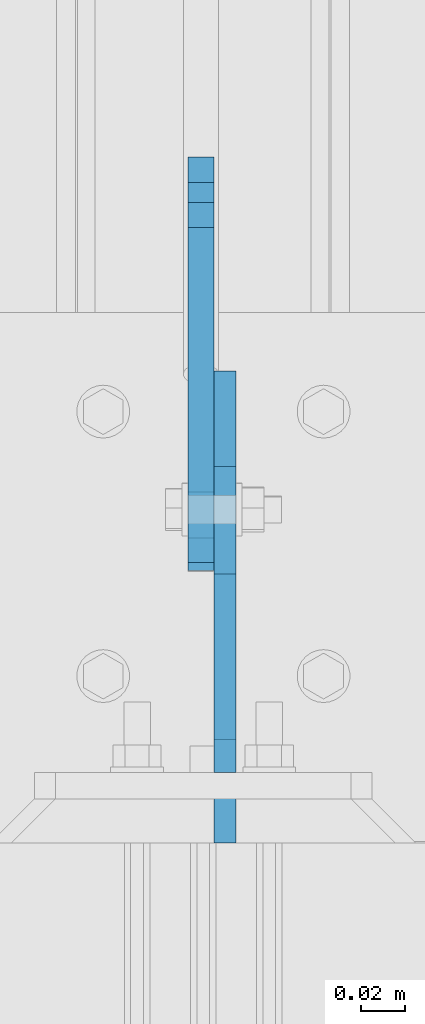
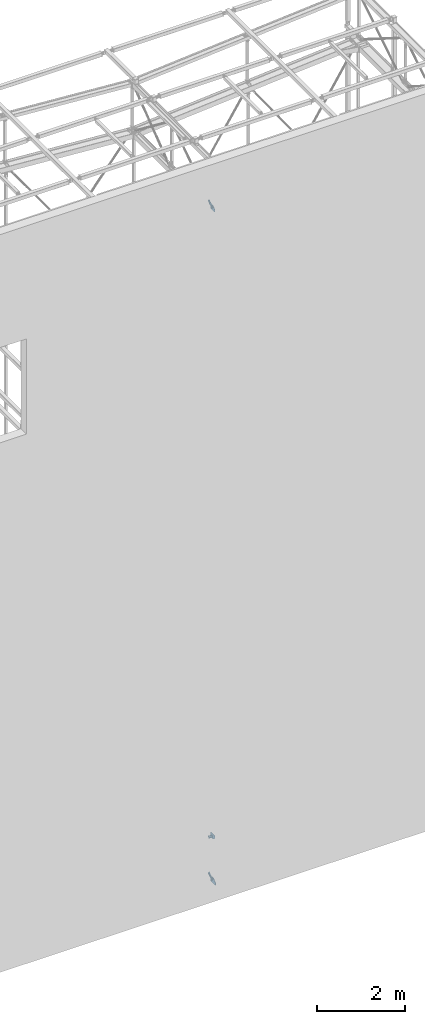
# One storey, part 116 of 271: 6 plates, 6 elements without a shape of their own.
"""IFC2X3 building model written with IfcOpenShell, lengths in millimetres."""

from ifc_helpers import new_model, si_unit, frame, origin_with_axes, place, context, subcontext, project, spatial, polyline, outline, extrude, material, type_object, element, aggregate, save


model = new_model("IFC2X3")

# Units and contexts
model_context = context("Model", 3, precision=1e-05, world=origin_with_axes())
body_context = subcontext(model_context, "Body", "Model", "MODEL_VIEW")
ifc_project = project(units=[si_unit("LENGTHUNIT", "METRE", prefix="MILLI"), si_unit("AREAUNIT", "SQUARE_METRE"), si_unit("VOLUMEUNIT", "CUBIC_METRE"), si_unit("MASSUNIT", "GRAM", prefix="KILO"), si_unit("TIMEUNIT", "SECOND"), si_unit("PLANEANGLEUNIT", "RADIAN"), si_unit("SOLIDANGLEUNIT", "STERADIAN"), si_unit("THERMODYNAMICTEMPERATUREUNIT", "DEGREE_CELSIUS"), si_unit("LUMINOUSINTENSITYUNIT", "LUMEN")], contexts=[model_context])

# Site, building, storey
site_placement = place(None, origin_with_axes())
site = spatial("IfcSite", under=ifc_project, at=site_placement, Name="Undefined", CompositionType="ELEMENT")
building_placement = place(site_placement, origin_with_axes())
building = spatial("IfcBuilding", under=site, at=building_placement, Name="Undefined", CompositionType="ELEMENT")
storey_placement = place(building_placement, origin_with_axes())
storey = spatial("IfcBuildingStorey", under=building, at=storey_placement, Name="Undefined", CompositionType="ELEMENT", Elevation=0.0)

# Assembly, plate
assembly_1_placement = place(storey_placement, origin_with_axes())
assembly_1 = element("IfcElementAssembly", 1, at=assembly_1_placement, inside=storey, AssemblyPlace="NOTDEFINED", PredefinedType="RIGID_FRAME")
ifc_material = material(Name="STEEL/S355JR")
plate_type_1 = type_object("IfcPlateType", Name="BL12*56", PredefinedType="NOTDEFINED")
plate_1_placement = place(assembly_1_placement, frame((6347.37568798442, 126.593157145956, 104.650777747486), z_axis=(1.0, 0.0, 0.0), x_axis=(0.0, -0.177371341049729, -0.984143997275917)))
plate_1 = element("IfcPlate", 2, at=plate_1_placement, type_object=plate_type_1, material=ifc_material, Name="BLACHA", ObjectType="BL12*56", context=body_context, shape_type="SweptSolid", body=[
    extrude(outline(polyline([(0.0, 0.0), (21.2132034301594, 1.09139364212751e-11), (39.5979804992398, 18.3847751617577), (39.5979804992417, 39.5979804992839), (-91.2167739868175, 170.412734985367), (-105.358909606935, 156.270599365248), (-34.6482315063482, 85.5599212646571), (-45.9619407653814, 74.2462158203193), (-116.672622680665, 144.95689392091), (-130.814758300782, 130.814758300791), (0.0, 0.0)])), frame((0.0, 0.0, -6.0), z_axis=(0.0, 0.0, 1.0), x_axis=(1.0, 0.0, 0.0)), (0.0, 0.0, 1.0), 12.0),
])
aggregate(assembly_1, [plate_1])

assembly_2_placement = place(storey_placement, origin_with_axes())
assembly_2 = element("IfcElementAssembly", 3, at=assembly_2_placement, inside=storey, AssemblyPlace="NOTDEFINED", PredefinedType="RIGID_FRAME")
plate_2_placement = place(assembly_2_placement, frame((6347.37568798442, 126.593157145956, 1257.04922206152), z_axis=(-1.0, 0.0, 1.38777878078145e-17), x_axis=(0.0, -0.177371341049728, 0.984143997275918)))
plate_2 = element("IfcPlate", 4, at=plate_2_placement, type_object=plate_type_1, material=ifc_material, Name="BLACHA", ObjectType="BL12*56", context=body_context, shape_type="SweptSolid", body=[
    extrude(outline(polyline([(0.0, 0.0), (21.2132034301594, 1.09139364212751e-11), (39.5979804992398, 18.3847751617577), (39.5979804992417, 39.5979804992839), (-91.2167739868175, 170.412734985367), (-105.358909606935, 156.270599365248), (-34.6482315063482, 85.5599212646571), (-45.9619407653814, 74.2462158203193), (-116.672622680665, 144.95689392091), (-130.814758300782, 130.814758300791), (0.0, 0.0)])), frame((0.0, 0.0, -6.0), z_axis=(0.0, 0.0, 1.0), x_axis=(1.0, 0.0, 0.0)), (0.0, 0.0, 1.0), 12.0),
])
aggregate(assembly_2, [plate_2])

assembly_3_placement = place(storey_placement, origin_with_axes())
assembly_3 = element("IfcElementAssembly", 5, at=assembly_3_placement, inside=storey, AssemblyPlace="NOTDEFINED", PredefinedType="RIGID_FRAME")
plate_3_placement = place(assembly_3_placement, frame((6347.37568736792, 158.539722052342, 18705.6571171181), z_axis=(-1.0, 0.0, 1.38777878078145e-17), x_axis=(0.0, -0.984143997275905, 0.177371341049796)))
plate_3 = element("IfcPlate", 6, at=plate_3_placement, type_object=plate_type_1, material=ifc_material, Name="BLACHA", ObjectType="BL12*56", context=body_context, shape_type="SweptSolid", body=[
    extrude(outline(polyline([(0.0, 0.0), (21.2132034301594, 1.09139364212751e-11), (39.5979804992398, 18.3847751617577), (39.5979804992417, 39.5979804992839), (-91.2167739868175, 170.412734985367), (-105.358909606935, 156.270599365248), (-34.6482315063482, 85.5599212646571), (-45.9619407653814, 74.2462158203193), (-116.672622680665, 144.95689392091), (-130.814758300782, 130.814758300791), (0.0, 0.0)])), frame((0.0, 0.0, -6.0), z_axis=(0.0, 0.0, 1.0), x_axis=(1.0, 0.0, 0.0)), (0.0, 0.0, 1.0), 12.0),
])
aggregate(assembly_3, [plate_3])

assembly_4_placement = place(storey_placement, origin_with_axes())
assembly_4 = element("IfcElementAssembly", 7, at=assembly_4_placement, inside=storey, AssemblyPlace="NOTDEFINED", PredefinedType="RIGID_FRAME")
plate_type_2 = type_object("IfcPlateType", Name="BL10*147", PredefinedType="NOTDEFINED")
plate_4_placement = place(assembly_4_placement, frame((6358.37568767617, -0.675015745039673, 0.0999999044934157), z_axis=(1.0, 0.0, 0.0), x_axis=(0.0, 1.0, 0.0)))
plate_4 = element("IfcPlate", 8, at=plate_4_placement, type_object=plate_type_2, material=ifc_material, Name="BLACHA", ObjectType="BL10*147", context=body_context, shape_type="SweptSolid", body=[
    extrude(outline(polyline([(0.0, 15.0), (15.0, -1.59872115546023e-14), (214.19841003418, -1.4210854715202e-14), (214.19841003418, 84.5724258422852), (170.842346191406, 146.992401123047), (90.0, 146.992401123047), (0.0, 76.9924011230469), (0.0, 15.0)])), frame((0.0, 0.0, -5.0), z_axis=(0.0, 0.0, 1.0), x_axis=(1.0, 0.0, 0.0)), (0.0, 0.0, 1.0), 10.0),
])
aggregate(assembly_4, [plate_4])

assembly_5_placement = place(storey_placement, origin_with_axes())
assembly_5 = element("IfcElementAssembly", 9, at=assembly_5_placement, inside=storey, AssemblyPlace="NOTDEFINED", PredefinedType="RIGID_FRAME")
plate_5_placement = place(assembly_5_placement, frame((6358.37568767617, 31.3249842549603, 1361.59999990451), z_axis=(-1.0, 0.0, 1.38777878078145e-17), x_axis=(0.0, 1.0, 0.0)))
plate_5 = element("IfcPlate", 10, at=plate_5_placement, type_object=plate_type_2, material=ifc_material, Name="BLACHA", ObjectType="BL10*147", context=body_context, shape_type="SweptSolid", body=[
    extrude(outline(polyline([(0.0, 15.0), (15.0, -1.59872115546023e-14), (182.19841003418, -1.4210854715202e-14), (182.19841003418, 84.5724258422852), (138.842346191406, 146.992401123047), (90.0, 146.992401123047), (0.0, 76.9924011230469), (0.0, 15.0)])), frame((0.0, 0.0, -5.0), z_axis=(0.0, 0.0, 1.0), x_axis=(1.0, 0.0, 0.0)), (0.0, 0.0, 1.0), 10.0),
])
aggregate(assembly_5, [plate_5])

assembly_6_placement = place(storey_placement, origin_with_axes())
assembly_6 = element("IfcElementAssembly", 11, at=assembly_6_placement, inside=storey, AssemblyPlace="NOTDEFINED", PredefinedType="RIGID_FRAME")
plate_6_placement = place(assembly_6_placement, frame((6358.37568767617, 213.523388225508, 18647.0999999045), z_axis=(-1.0, 0.0, 1.38777878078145e-17), x_axis=(0.0, -1.0, 0.0)))
plate_6 = element("IfcPlate", 12, at=plate_6_placement, type_object=plate_type_2, material=ifc_material, Name="BLACHA", ObjectType="BL10*147", context=body_context, shape_type="SweptSolid", body=[
    extrude(outline(polyline([(0.0, 0.0), (167.19841003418, 0.0), (182.19841003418, 15.0), (182.19841003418, 76.9924011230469), (92.1984100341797, 146.992401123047), (43.3560562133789, 146.992401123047), (0.0, 84.5724258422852), (0.0, 0.0)])), frame((0.0, 0.0, -5.0), z_axis=(0.0, 0.0, 1.0), x_axis=(1.0, 0.0, 0.0)), (0.0, 0.0, 1.0), 10.0),
])
aggregate(assembly_6, [plate_6])

save(model, "model.ifc")
